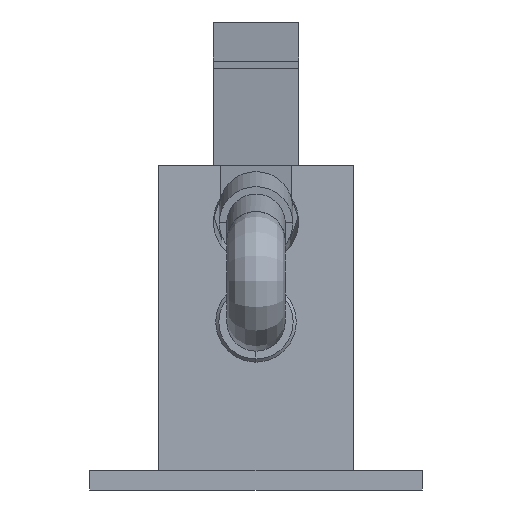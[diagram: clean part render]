
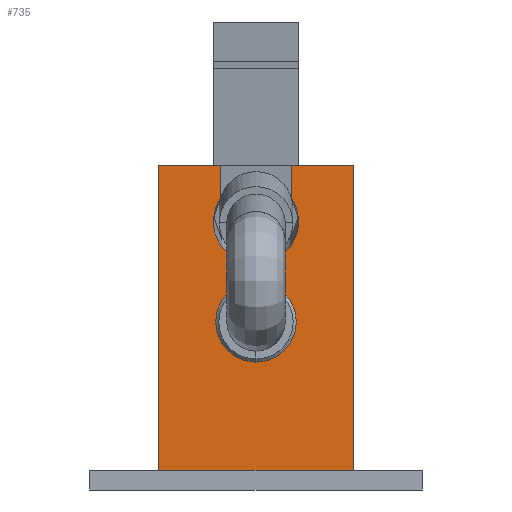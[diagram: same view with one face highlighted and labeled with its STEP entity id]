
A CAD part, front view. The second image highlights one B-rep face of the part: STEP entity #735.
In plain terms, the highlighted planar face has unit normal (0, -1, 0).
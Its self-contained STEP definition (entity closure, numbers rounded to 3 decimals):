
#598 = VERTEX_POINT('',#599);
#599 = CARTESIAN_POINT('',(25.059,-8.219,
    83.196));
#616 = VERTEX_POINT('',#617);
#617 = CARTESIAN_POINT('',(9.021,-8.219,
    83.196));
#623 = EDGE_CURVE('',#616,#598,#624,.T.);
#624 = LINE('',#625,#626);
#625 = CARTESIAN_POINT('',(9.021,-8.219,
    83.196));
#626 = VECTOR('',#627,1.);
#627 = DIRECTION('',(1.,0.,0.));
#640 = VERTEX_POINT('',#641);
#641 = CARTESIAN_POINT('',(-25.059,-8.219,
    83.196));
#647 = EDGE_CURVE('',#640,#648,#650,.T.);
#648 = VERTEX_POINT('',#649);
#649 = CARTESIAN_POINT('',(-9.021,-8.219,
    83.196));
#650 = LINE('',#651,#652);
#651 = CARTESIAN_POINT('',(-25.059,-8.219,
    83.196));
#652 = VECTOR('',#653,1.);
#653 = DIRECTION('',(1.,0.,0.));
#688 = VERTEX_POINT('',#689);
#689 = CARTESIAN_POINT('',(25.059,-8.219,
    5.));
#695 = EDGE_CURVE('',#688,#696,#698,.T.);
#696 = VERTEX_POINT('',#697);
#697 = CARTESIAN_POINT('',(-25.059,-8.219,
    5.));
#698 = LINE('',#699,#700);
#699 = CARTESIAN_POINT('',(25.059,-8.219,
    5.));
#700 = VECTOR('',#701,1.);
#701 = DIRECTION('',(-1.,0.,0.));
#725 = EDGE_CURVE('',#696,#640,#726,.T.);
#726 = LINE('',#727,#728);
#727 = CARTESIAN_POINT('',(-25.059,-8.219,
    83.196));
#728 = VECTOR('',#729,1.);
#729 = DIRECTION('',(0.,0.,1.));
#735 = ADVANCED_FACE('',(#736),#771,.T.);
#736 = FACE_BOUND('',#737,.T.);
#737 = EDGE_LOOP('',(#738,#739,#745,#746,#754,#763,#769,#770));
#738 = ORIENTED_EDGE('',*,*,#695,.F.);
#739 = ORIENTED_EDGE('',*,*,#740,.T.);
#740 = EDGE_CURVE('',#688,#598,#741,.T.);
#741 = LINE('',#742,#743);
#742 = CARTESIAN_POINT('',(25.059,-8.219,
    83.196));
#743 = VECTOR('',#744,1.);
#744 = DIRECTION('',(0.,0.,1.));
#745 = ORIENTED_EDGE('',*,*,#623,.F.);
#746 = ORIENTED_EDGE('',*,*,#747,.T.);
#747 = EDGE_CURVE('',#616,#748,#750,.T.);
#748 = VERTEX_POINT('',#749);
#749 = CARTESIAN_POINT('',(9.021,-8.219,
    74.956));
#750 = LINE('',#751,#752);
#751 = CARTESIAN_POINT('',(9.021,-8.219,
    83.196));
#752 = VECTOR('',#753,1.);
#753 = DIRECTION('',(0.,0.,-1.));
#754 = ORIENTED_EDGE('',*,*,#755,.T.);
#755 = EDGE_CURVE('',#748,#756,#758,.T.);
#756 = VERTEX_POINT('',#757);
#757 = CARTESIAN_POINT('',(-9.021,-8.219,
    74.956));
#758 = CIRCLE('',#759,10.917);
#759 = AXIS2_PLACEMENT_3D('',#760,#761,#762);
#760 = CARTESIAN_POINT('',(0.,-8.219,
    68.807));
#761 = DIRECTION('',(0.,1.,0.));
#762 = DIRECTION('',(1.,0.,0.));
#763 = ORIENTED_EDGE('',*,*,#764,.T.);
#764 = EDGE_CURVE('',#756,#648,#765,.T.);
#765 = LINE('',#766,#767);
#766 = CARTESIAN_POINT('',(-9.021,-8.219,
    74.956));
#767 = VECTOR('',#768,1.);
#768 = DIRECTION('',(0.,0.,1.));
#769 = ORIENTED_EDGE('',*,*,#647,.F.);
#770 = ORIENTED_EDGE('',*,*,#725,.F.);
#771 = PLANE('',#772);
#772 = AXIS2_PLACEMENT_3D('',#773,#774,#775);
#773 = CARTESIAN_POINT('',(-25.059,-8.219,
    83.196));
#774 = DIRECTION('',(0.,-1.,0.));
#775 = DIRECTION('',(0.,0.,-1.));
